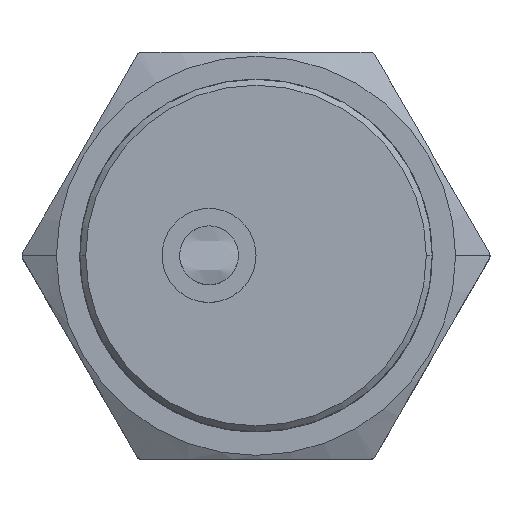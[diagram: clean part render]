
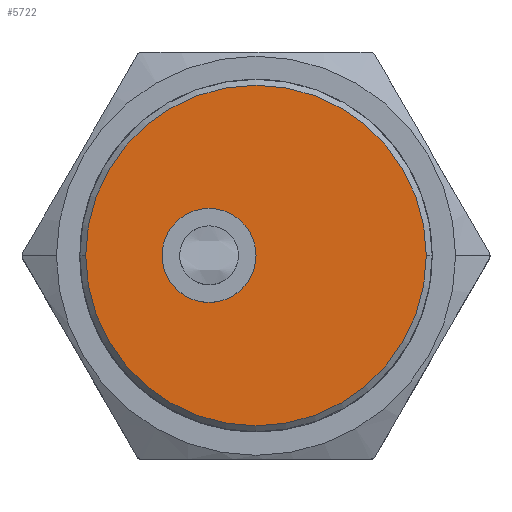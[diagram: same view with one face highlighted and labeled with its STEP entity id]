
A CAD part, top view. The second image highlights one B-rep face of the part: STEP entity #5722.
In plain terms, the highlighted planar face has unit normal (0, 0, 1).
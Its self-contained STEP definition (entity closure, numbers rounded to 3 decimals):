
#1886=CARTESIAN_POINT('',(-4.,0.,55.));
#1887=DIRECTION('',(0.,0.,1.));
#1888=DIRECTION('',(1.,0.,0.));
#1889=AXIS2_PLACEMENT_3D('',#1886,#1887,#1888);
#1894=CARTESIAN_POINT('',(-4.,0.,55.));
#1895=DIRECTION('',(0.,0.,1.));
#1896=DIRECTION('',(-1.,0.,0.));
#1897=AXIS2_PLACEMENT_3D('',#1894,#1895,#1896);
#1902=CARTESIAN_POINT('',(0.,0.,55.));
#1903=DIRECTION('',(0.,0.,1.));
#1904=DIRECTION('',(1.,0.,0.));
#1905=AXIS2_PLACEMENT_3D('',#1902,#1903,#1904);
#1910=CARTESIAN_POINT('',(0.,0.,55.));
#1911=DIRECTION('',(0.,0.,1.));
#1912=DIRECTION('',(-1.,0.,0.));
#1913=AXIS2_PLACEMENT_3D('',#1910,#1911,#1912);
#4624=CARTESIAN_POINT('',(0.,0.,55.));
#4625=CARTESIAN_POINT('',(-8.,0.,55.));
#4626=VERTEX_POINT('',#4624);
#4627=VERTEX_POINT('',#4625);
#4632=CARTESIAN_POINT('',(-14.5,0.,
55.));
#4633=VERTEX_POINT('',#4632);
#4634=CARTESIAN_POINT('',(14.5,0.,55.));
#4635=VERTEX_POINT('',#4634);
#5707=CARTESIAN_POINT('',(0.,0.,55.));
#5708=DIRECTION('',(0.,0.,1.));
#5709=DIRECTION('',(1.,0.,0.));
#5710=AXIS2_PLACEMENT_3D('',#5707,#5708,#5709);
#5711=PLANE('',#5710);
#5712=ORIENTED_EDGE('',*,*,#5685,.F.);
#5713=ORIENTED_EDGE('',*,*,#5699,.F.);
#5714=EDGE_LOOP('',(#5712,#5713));
#5715=FACE_OUTER_BOUND('',#5714,.F.);
#5717=ORIENTED_EDGE('',*,*,#5716,.T.);
#5719=ORIENTED_EDGE('',*,*,#5718,.T.);
#5720=EDGE_LOOP('',(#5717,#5719));
#5721=FACE_BOUND('',#5720,.F.);
#1890=CIRCLE('',#1889,4.);
#1898=CIRCLE('',#1897,4.);
#1906=CIRCLE('',#1905,14.5);
#1914=CIRCLE('',#1913,14.5);
#5685=EDGE_CURVE('',#4635,#4633,#1906,.T.);
#5699=EDGE_CURVE('',#4633,#4635,#1914,.T.);
#5716=EDGE_CURVE('',#4626,#4627,#1890,.T.);
#5718=EDGE_CURVE('',#4627,#4626,#1898,.T.);
#5722=ADVANCED_FACE('',(#5715,#5721),#5711,.T.);
